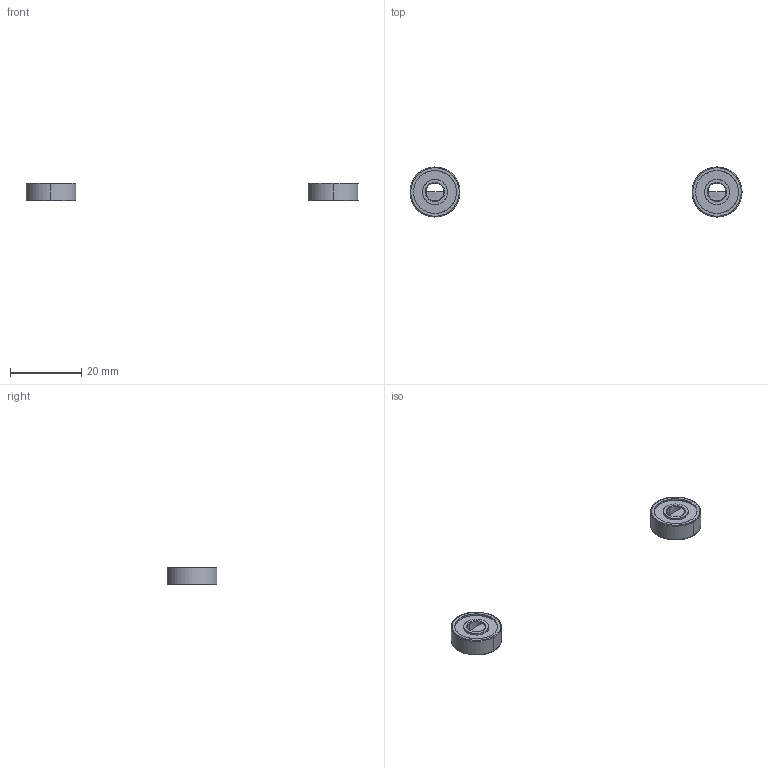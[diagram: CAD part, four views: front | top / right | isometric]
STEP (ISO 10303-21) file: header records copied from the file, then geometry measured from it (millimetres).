
FILE_DESCRIPTION(/* description */ (''),/* implementation_level */ '2;1');
FILE_NAME(/* name */ '7.x-cart#7.5#B605ZZ',/* time_stamp */ '2014-12-01T20:17:30+01:00',/* author */ (''),/* organization */ (''),/* preprocessor_version */ 'ST-DEVELOPER v14',/* originating_system */ '',/* authorisation */ '');
FILE_SCHEMA (('AUTOMOTIVE_DESIGN'));
Length unit declared in the file: millimetre
Products named in the file (2): Document; ball bearing 5x14x5mm
Assembly tree (2 placements, depth 2):
  Document
    ball bearing 5x14x5mm  x2
Bounding box: 93 x 14 x 5 mm (x, y, z)
Surface area: 1234.3 mm2 (no closed solid volume)
Topology: 0 solids, 52 shells, 52 faces, 184 edges, 182 vertices
Faces by surface type: bspline 40, plane 12
Entity records: 2736 total; most frequent: CARTESIAN_POINT 1639, B_SPLINE_CURVE_WITH_KNOTS 103, ORIENTED_EDGE 91, PCURVE 91, DEFINITIONAL_REPRESENTATION 91, SURFACE_CURVE 91, EDGE_CURVE 91, VERTEX_POINT 91
